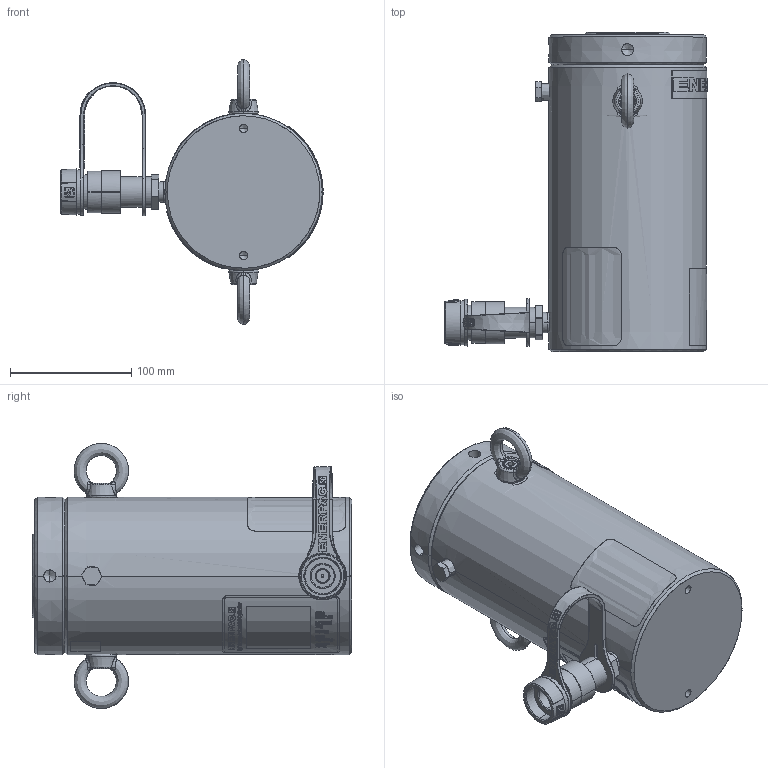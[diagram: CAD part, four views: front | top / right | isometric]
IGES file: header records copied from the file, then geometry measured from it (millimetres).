
Start section:  PTC IGES file: hcl506.igs
Global section: file name: hcl506.igs; native system: Creo Parametric by PTC Inc.; preprocessor: 2015290; author: Akhilesh.Subrahmanya; organization: Unknown; date: 20170621.154632; units: millimetre
Bounding box: 216.62 x 264 x 218.95 mm (x, y, z)
Surface area: 329590.2 mm2 (no closed solid volume)
Topology: 0 solids, 0 shells, 878 faces, 7051 edges, 7032 vertices
Faces by surface type: revolution 426, bspline 423, extrusion 29
